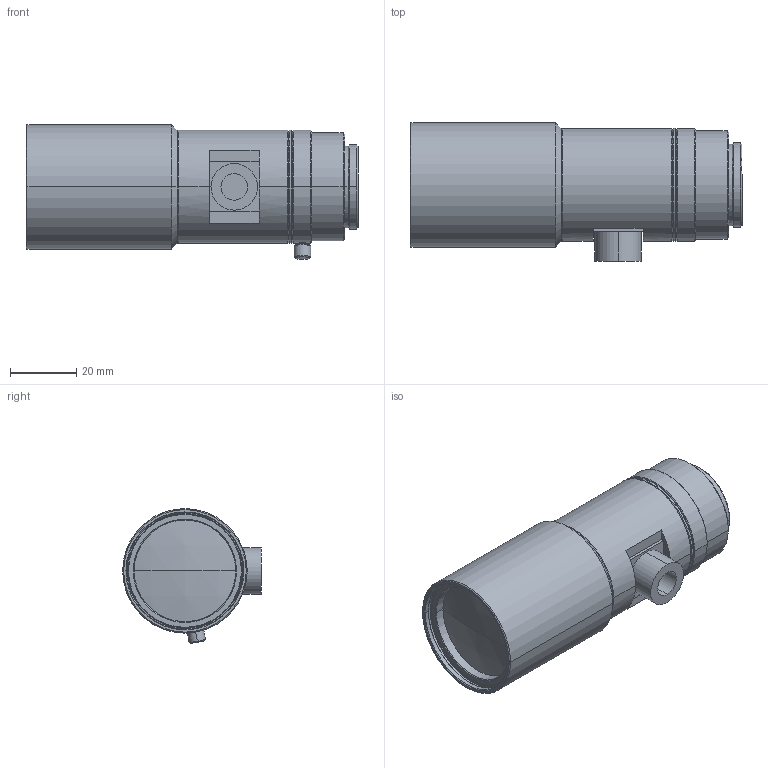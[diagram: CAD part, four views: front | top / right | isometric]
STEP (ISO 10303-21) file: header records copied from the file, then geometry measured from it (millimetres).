
FILE_DESCRIPTION (( 'STEP AP203' ), '1' );
FILE_NAME ('VS-TCT05-65CO_S.STEP', '2016-08-30T07:16:27', ( '' ), ( '' ), 'SwSTEP 2.0', 'SolidWorks 2016', '' );
FILE_SCHEMA (( 'CONFIG_CONTROL_DESIGN' ));
Length unit declared in the file: millimetre
Products named in the file (1): VS-TCT05-65CO_S
Bounding box: 99.97 x 41.75 x 40.6 mm (x, y, z)
Volume: 89965.2 mm3; surface area: 16787.3 mm2
Topology: 3 solids, 3 shells, 132 faces, 265 edges, 156 vertices
Faces by surface type: cone 58, cylinder 42, plane 28, sphere 4
Entity records: 3498 total; most frequent: DIRECTION 679, CARTESIAN_POINT 554, ORIENTED_EDGE 530, AXIS2_PLACEMENT_3D 281, EDGE_CURVE 265, VERTEX_POINT 156, EDGE_LOOP 151, CIRCLE 148
